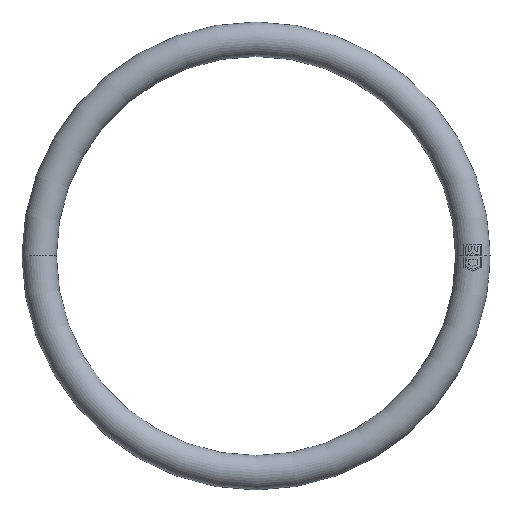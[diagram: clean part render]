
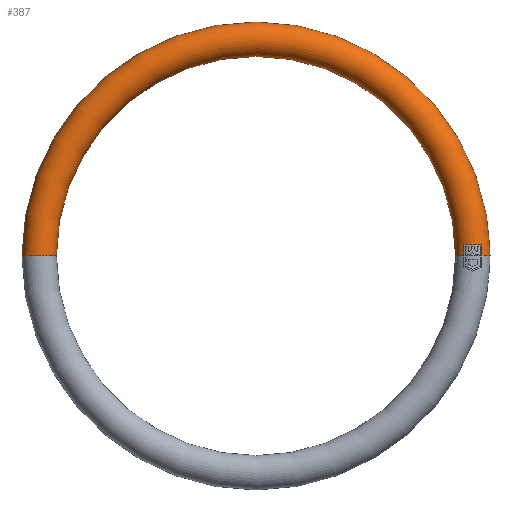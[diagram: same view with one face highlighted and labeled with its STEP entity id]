
A CAD part, top view. The second image highlights one B-rep face of the part: STEP entity #387.
In plain terms, the highlighted toroidal (fillet/blend) face has major radius 15.75 mm and minor radius 1.25 mm.
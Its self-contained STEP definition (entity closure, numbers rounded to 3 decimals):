
#309 = ORIENTED_EDGE ( 'NONE', *, *, #310, .T. ) ;
#310 = EDGE_CURVE ( 'NONE', #354, #367, #1043, .T. ) ;
#354 = VERTEX_POINT ( 'NONE', #1165 ) ;
#357 = VERTEX_POINT ( 'NONE', #1216 ) ;
#360 = VERTEX_POINT ( 'NONE', #1210 ) ;
#367 = VERTEX_POINT ( 'NONE', #1198 ) ;
#368 = ORIENTED_EDGE ( 'NONE', *, *, #369, .T. ) ;
#369 = EDGE_CURVE ( 'NONE', #367, #370, #1196, .T. ) ;
#370 = VERTEX_POINT ( 'NONE', #1197 ) ;
#371 = ORIENTED_EDGE ( 'NONE', *, *, #372, .T. ) ;
#372 = EDGE_CURVE ( 'NONE', #370, #373, #1250, .T. ) ;
#373 = VERTEX_POINT ( 'NONE', #1249 ) ;
#374 = ORIENTED_EDGE ( 'NONE', *, *, #375, .T. ) ;
#375 = EDGE_CURVE ( 'NONE', #373, #376, #1248, .T. ) ;
#376 = VERTEX_POINT ( 'NONE', #1247 ) ;
#377 = ORIENTED_EDGE ( 'NONE', *, *, #378, .T. ) ;
#378 = EDGE_CURVE ( 'NONE', #376, #405, #1225, .T. ) ;
#383 = EDGE_CURVE ( 'NONE', #357, #405, #1269, .T. ) ;
#386 = EDGE_CURVE ( 'NONE', #360, #354, #1265, .T. ) ;
#387 = ADVANCED_FACE ( 'NONE', ( #1260 ), #1259, .T. ) ;
#388 = EDGE_LOOP ( 'NONE', ( #389, #390, #392, #309, #368, #371, #374, #377 ) ) ;
#389 = ORIENTED_EDGE ( 'NONE', *, *, #383, .F. ) ;
#390 = ORIENTED_EDGE ( 'NONE', *, *, #391, .F. ) ;
#391 = EDGE_CURVE ( 'NONE', #360, #357, #1309, .T. ) ;
#392 = ORIENTED_EDGE ( 'NONE', *, *, #386, .T. ) ;
#405 = VERTEX_POINT ( 'NONE', #1295 ) ;
#1039 = DIRECTION ( 'NONE',  ( -1., 0., 0. ) ) ;
#1040 = DIRECTION ( 'NONE',  ( 0., 1., 0. ) ) ;
#1041 = CARTESIAN_POINT ( 'NONE',  ( 15.75, 0., 0. ) ) ;
#1042 = AXIS2_PLACEMENT_3D ( 'NONE', #1041, #1040, #1039 ) ;
#1043 = CIRCLE ( 'NONE', #1042, 1.25 ) ;
#1165 = CARTESIAN_POINT ( 'NONE',  ( 14.5, 0., 0. ) ) ;
#1195 = CARTESIAN_POINT ( 'NONE',  ( 15.1, 0., 1.068 ) ) ;
#1196 = B_SPLINE_CURVE_WITH_KNOTS ( 'NONE', 3,
 ( #1195, #1253, #1252, #1251 ),
 .UNSPECIFIED., .F., .F.,
 ( 4, 4 ),
 ( 0.5, 1. ),
 .UNSPECIFIED. ) ;
#1197 = CARTESIAN_POINT ( 'NONE',  ( 15.1, 0.828, 1.081 ) ) ;
#1198 = CARTESIAN_POINT ( 'NONE',  ( 15.1, 0., 1.068 ) ) ;
#1210 = CARTESIAN_POINT ( 'NONE',  ( -14.5, 0., 0. ) ) ;
#1216 = CARTESIAN_POINT ( 'NONE',  ( -17., 0., 0. ) ) ;
#1222 = DIRECTION ( 'NONE',  ( 0., 1., 0. ) ) ;
#1223 = CARTESIAN_POINT ( 'NONE',  ( 15.75, 0., 0. ) ) ;
#1224 = AXIS2_PLACEMENT_3D ( 'NONE', #1223, #1222, #1283 ) ;
#1225 = CIRCLE ( 'NONE', #1224, 1.25 ) ;
#1227 = CARTESIAN_POINT ( 'NONE',  ( 16.4, 0., 1.068 ) ) ;
#1228 = CARTESIAN_POINT ( 'NONE',  ( 16.4, 0.278, 1.068 ) ) ;
#1229 = CARTESIAN_POINT ( 'NONE',  ( 16.4, 0.554, 1.064 ) ) ;
#1230 = CARTESIAN_POINT ( 'NONE',  ( 16.4, 0.828, 1.055 ) ) ;
#1231 = CARTESIAN_POINT ( 'NONE',  ( 16.4, 0.828, 1.055 ) ) ;
#1232 = CARTESIAN_POINT ( 'NONE',  ( 16.32, 0.828, 1.105 ) ) ;
#1233 = CARTESIAN_POINT ( 'NONE',  ( 16.227, 0.828, 1.152 ) ) ;
#1234 = CARTESIAN_POINT ( 'NONE',  ( 16.01, 0.828, 1.223 ) ) ;
#1235 = CARTESIAN_POINT ( 'NONE',  ( 15.888, 0.828, 1.247 ) ) ;
#1236 = CARTESIAN_POINT ( 'NONE',  ( 15.746, 0.828, 1.25 ) ) ;
#1237 = CARTESIAN_POINT ( 'NONE',  ( 15.74, 0.828, 1.25 ) ) ;
#1238 = CARTESIAN_POINT ( 'NONE',  ( 15.726, 0.828, 1.25 ) ) ;
#1239 = CARTESIAN_POINT ( 'NONE',  ( 15.705, 0.828, 1.25 ) ) ;
#1240 = CARTESIAN_POINT ( 'NONE',  ( 15.655, 0.828, 1.248 ) ) ;
#1241 = CARTESIAN_POINT ( 'NONE',  ( 15.612, 0.828, 1.245 ) ) ;
#1242 = CARTESIAN_POINT ( 'NONE',  ( 15.527, 0.828, 1.235 ) ) ;
#1243 = CARTESIAN_POINT ( 'NONE',  ( 15.471, 0.828, 1.225 ) ) ;
#1244 = CARTESIAN_POINT ( 'NONE',  ( 15.305, 0.828, 1.182 ) ) ;
#1245 = CARTESIAN_POINT ( 'NONE',  ( 15.197, 0.828, 1.137 ) ) ;
#1246 = CARTESIAN_POINT ( 'NONE',  ( 15.1, 0.828, 1.081 ) ) ;
#1247 = CARTESIAN_POINT ( 'NONE',  ( 16.4, 0., 1.068 ) ) ;
#1248 = B_SPLINE_CURVE_WITH_KNOTS ( 'NONE', 3,
 ( #1230, #1229, #1228, #1227 ),
 .UNSPECIFIED., .F., .F.,
 ( 4, 4 ),
 ( 0., 0.5 ),
 .UNSPECIFIED. ) ;
#1249 = CARTESIAN_POINT ( 'NONE',  ( 16.4, 0.828, 1.055 ) ) ;
#1250 = B_SPLINE_CURVE_WITH_KNOTS ( 'NONE', 3,
 ( #1246, #1245, #1244, #1243, #1242, #1241, #1240, #1239, #1238, #1237, #1236, #1235, #1234, #1233, #1232, #1231 ),
 .UNSPECIFIED., .F., .F.,
 ( 4, 2, 2, 1, 1, 2, 2, 2, 4 ),
 ( 0., 0.25, 0.375, 0.437, 0.469, 0.484, 0.5, 0.75, 1. ),
 .UNSPECIFIED. ) ;
#1251 = CARTESIAN_POINT ( 'NONE',  ( 15.1, 0.828, 1.081 ) ) ;
#1252 = CARTESIAN_POINT ( 'NONE',  ( 15.1, 0.551, 1.072 ) ) ;
#1253 = CARTESIAN_POINT ( 'NONE',  ( 15.1, 0.276, 1.068 ) ) ;
#1254 = DIRECTION ( 'NONE',  ( -1., 0., 0. ) ) ;
#1255 = DIRECTION ( 'NONE',  ( 0., 0., -1. ) ) ;
#1256 = CARTESIAN_POINT ( 'NONE',  ( 0., 0., 0. ) ) ;
#1257 = AXIS2_PLACEMENT_3D ( 'NONE', #1256, #1255, #1254 ) ;
#1258 = CARTESIAN_POINT ( 'NONE',  ( -15.75, 0., 0. ) ) ;
#1259 = TOROIDAL_SURFACE ( 'NONE', #1257, 15.75, 1.25 ) ;
#1260 = FACE_OUTER_BOUND ( 'NONE', #388, .T. ) ;
#1261 = DIRECTION ( 'NONE',  ( -1., 0., 0. ) ) ;
#1262 = DIRECTION ( 'NONE',  ( 0., 0., -1. ) ) ;
#1263 = CARTESIAN_POINT ( 'NONE',  ( 0., 0., 0. ) ) ;
#1264 = AXIS2_PLACEMENT_3D ( 'NONE', #1263, #1262, #1261 ) ;
#1265 = CIRCLE ( 'NONE', #1264, 14.5 ) ;
#1266 = DIRECTION ( 'NONE',  ( -1., 0., 0. ) ) ;
#1267 = DIRECTION ( 'NONE',  ( 0., 0., -1. ) ) ;
#1268 = AXIS2_PLACEMENT_3D ( 'NONE', #1274, #1267, #1266 ) ;
#1269 = CIRCLE ( 'NONE', #1268, 17. ) ;
#1274 = CARTESIAN_POINT ( 'NONE',  ( 0., 0., 0. ) ) ;
#1283 = DIRECTION ( 'NONE',  ( -1., 0., 0. ) ) ;
#1295 = CARTESIAN_POINT ( 'NONE',  ( 17., 0., 0. ) ) ;
#1306 = DIRECTION ( 'NONE',  ( 0., 0., -1. ) ) ;
#1307 = DIRECTION ( 'NONE',  ( 0., -1., 0. ) ) ;
#1308 = AXIS2_PLACEMENT_3D ( 'NONE', #1258, #1307, #1306 ) ;
#1309 = CIRCLE ( 'NONE', #1308, 1.25 ) ;
